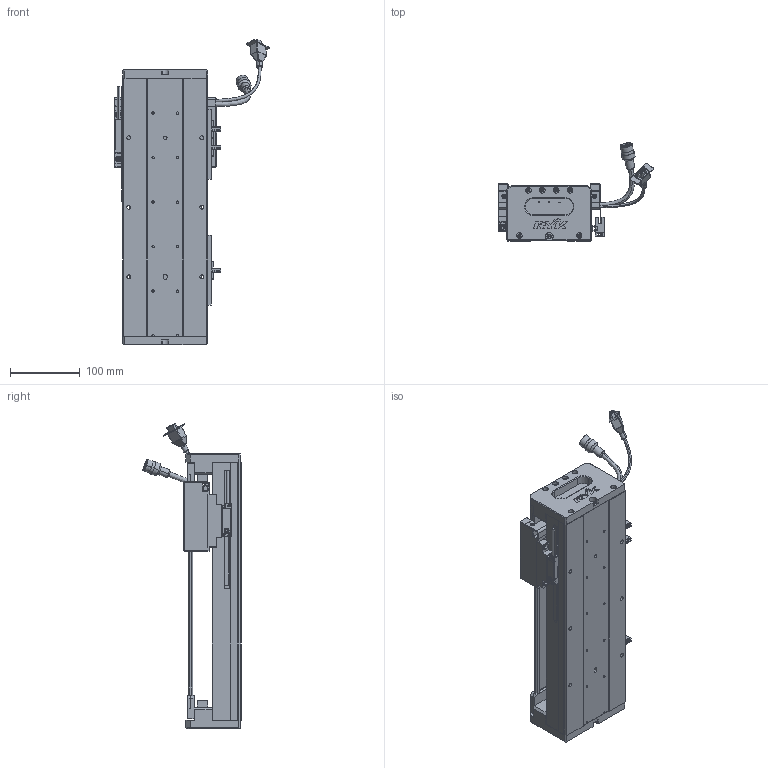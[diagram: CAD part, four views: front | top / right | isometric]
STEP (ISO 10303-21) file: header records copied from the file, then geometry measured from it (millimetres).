
FILE_DESCRIPTION (( 'STEP AP203' ), '1' );
FILE_NAME ('Z1-RY120D-1-L500-B-K.SLDASM_0200.step', '2021-05-17T03:44:21', ( '盈信电脑' ), ( '东莞市道滘镇水果街19号' ), 'SwSTEP 2.0', 'SolidWorks 2016', '' );
FILE_SCHEMA (( 'CONFIG_CONTROL_DESIGN' ));
Length unit declared in the file: millimetre
Products named in the file (37): HOLDER0; Z-RY120D詩湍奻揤裔; RY100FB-遵嫖萇覜茼え; Z-RY120D詩湍狟揤裔; SCALE-Part-2; PSLH080_PSLF2; 榋妏寠巭燃_暯_M2_2; SCREW-M1.6-3; SHIELDPLATE; HARNESS-Part-2; Z1-RY120铝滑块（21款）; SCALE; SCREW-M1.6-1; SEAL-Part-1; HARNESS-Part-1; 140雄赽晤鎢ん堤盄; SEAL; 672嫖萇羲壽假蚾釱; SCALE-Part-1; HARNESS; 120-Z-臏賑輸盄裔(21遴); PBU_SHEET; LABEL; COVER; SCREW-M1.6-2; 140蚥薯蝶輸; SCREW-M1.7-1; LABEL-Part-1; SCREW-M1.7; SCREW-M1.6; 覜茼ん672; COVER-Part-1; Z-120詩湍傷裔啣; Z1-RY120-500-倰第菁釱_0200; Z1-RY120-L500詩湍100mm遵_0200; Z1-RY120D-1-L500-B-K.SLDASM_0200; 080黍杅芛假蚾釱21遴
Assembly tree (43 placements, depth 4):
  Z1-RY120D-1-L500-B-K.SLDASM_0200
    Z1-RY120-500-倰第菁釱_0200
    覜茼ん672  x3
    672嫖萇羲壽假蚾釱  x2
    Z1-RY120铝滑块（21款）
    PSLH080_PSLF2
      SCALE
        SCALE-Part-1
        SCALE-Part-2
      HARNESS
        HARNESS-Part-1
        HARNESS-Part-2
      LABEL
        LABEL-Part-1
      COVER
        COVER-Part-1
      SEAL
        SEAL-Part-1
      榋妏寠巭燃_暯_M2_2
      SHIELDPLATE
      SCREW-M1.7
      SCREW-M1.7-1
      PBU_SHEET
      SCREW-M1.6
      SCREW-M1.6-1
      SCREW-M1.6-2
      SCREW-M1.6-3
      HOLDER0
    080黍杅芛假蚾釱21遴
    120-Z-臏賑輸盄裔(21遴)
    140雄赽晤鎢ん堤盄
    140蚥薯蝶輸  x2
    RY100FB-遵嫖萇覜茼え
    Z-120詩湍傷裔啣  x2
    Z-RY120D詩湍奻揤裔  x2
    Z-RY120D詩湍狟揤裔  x2
    Z1-RY120-L500詩湍100mm遵_0200
Bounding box: 222.88 x 140.94 x 439 mm (x, y, z)
Volume: 1444234.4 mm3; surface area: 486790.6 mm2
Topology: 38 solids, 38 shells, 2355 faces, 6148 edges, 3888 vertices
Faces by surface type: plane 1057, cylinder 954, cone 222, torus 69, bspline 53
Entity records: 65189 total; most frequent: CARTESIAN_POINT 15476, DIRECTION 9658, ORIENTED_EDGE 9376, EDGE_CURVE 4688, AXIS2_PLACEMENT_3D 3484, VERTEX_POINT 3008, LINE 2690, VECTOR 2690
